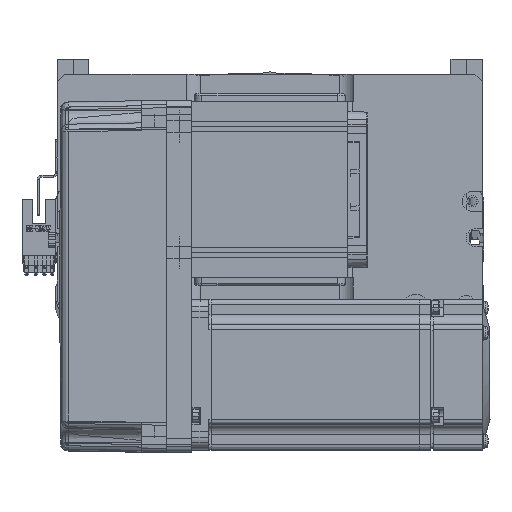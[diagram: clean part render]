
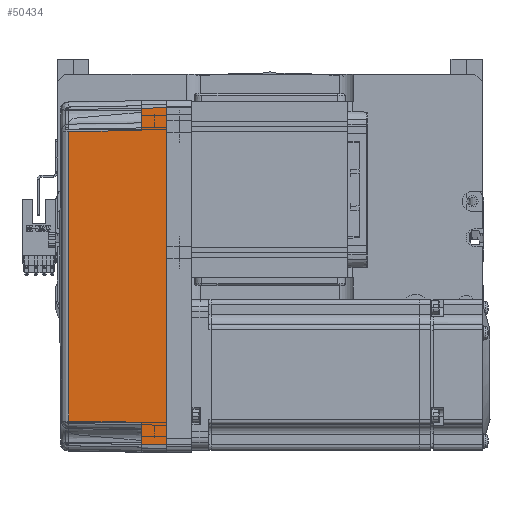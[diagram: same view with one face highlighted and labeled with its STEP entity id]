
A CAD part, top view. The second image highlights one B-rep face of the part: STEP entity #50434.
In plain terms, the highlighted planar face has unit normal (-0.018, 0, 1) as drawn and (0, -1, 0.017) by its records, which use the part's own axes.
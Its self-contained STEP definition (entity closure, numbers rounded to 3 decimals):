
#552 = EDGE_CURVE ( 'NONE', #25364, #19682, #39865, .T. ) ;
#1303 = VECTOR ( 'NONE', #15045, 1000. ) ;
#1972 = ORIENTED_EDGE ( 'NONE', *, *, #2095, .T. ) ;
#2040 = CARTESIAN_POINT ( 'NONE',  ( -57.495, -35.32, 38.985 ) ) ;
#2095 = EDGE_CURVE ( 'NONE', #4262, #47959, #62232, .T. ) ;
#4262 = VERTEX_POINT ( 'NONE', #66406 ) ;
#5604 = LINE ( 'NONE', #39344, #9659 ) ;
#6268 = DIRECTION ( 'NONE',  ( -0.017, 0.017, 1. ) ) ;
#9615 = CARTESIAN_POINT ( 'NONE',  ( 0., -36., 0. ) ) ;
#9659 = VECTOR ( 'NONE', #14251, 1000. ) ;
#10839 = DIRECTION ( 'NONE',  ( -1., 0., 0. ) ) ;
#11305 = EDGE_CURVE ( 'NONE', #53164, #25385, #28740, .T. ) ;
#12163 = CARTESIAN_POINT ( 'NONE',  ( -19.165, -35.316, 39.181 ) ) ;
#12827 = DIRECTION ( 'NONE',  ( -1., 0., 0. ) ) ;
#14251 = DIRECTION ( 'NONE',  ( -0.017, 0.017, 1. ) ) ;
#15045 = DIRECTION ( 'NONE',  ( -1., 0., 0. ) ) ;
#16704 = LINE ( 'NONE', #9615, #1303 ) ;
#17444 = VECTOR ( 'NONE', #10839, 1000. ) ;
#19682 = VERTEX_POINT ( 'NONE', #2040 ) ;
#20656 = LINE ( 'NONE', #54173, #31159 ) ;
#21698 = EDGE_CURVE ( 'NONE', #19682, #64224, #26202, .T. ) ;
#22330 = CARTESIAN_POINT ( 'NONE',  ( 57.495, -35.32, 38.985 ) ) ;
#22600 = CARTESIAN_POINT ( 'NONE',  ( -58., -35.825, 10. ) ) ;
#24704 = CARTESIAN_POINT ( 'NONE',  ( -66.826, -35.825, 10. ) ) ;
#25364 = VERTEX_POINT ( 'NONE', #34629 ) ;
#25385 = VERTEX_POINT ( 'NONE', #24704 ) ;
#26192 = DIRECTION ( 'NONE',  ( 0., -0.017, -1. ) ) ;
#26202 = LINE ( 'NONE', #49921, #65783 ) ;
#26653 = ORIENTED_EDGE ( 'NONE', *, *, #552, .T. ) ;
#26837 = DIRECTION ( 'NONE',  ( 0., -1., 0.017 ) ) ;
#27093 = CARTESIAN_POINT ( 'NONE',  ( 19.165, -35.316, 39.181 ) ) ;
#27764 = EDGE_CURVE ( 'NONE', #4262, #53164, #16704, .T. ) ;
#28740 = LINE ( 'NONE', #44649, #53024 ) ;
#31159 = VECTOR ( 'NONE', #12827, 1000. ) ;
#31430 = CARTESIAN_POINT ( 'NONE',  ( 70., -35.825, 10. ) ) ;
#34629 = CARTESIAN_POINT ( 'NONE',  ( 57.495, -35.32, 38.985 ) ) ;
#37218 = ORIENTED_EDGE ( 'NONE', *, *, #27764, .F. ) ;
#37267 = CARTESIAN_POINT ( 'NONE',  ( 67., -36., 0. ) ) ;
#37463 = CARTESIAN_POINT ( 'NONE',  ( -57.495, -35.32, 38.985 ) ) ;
#37650 = LINE ( 'NONE', #31430, #17444 ) ;
#38965 = ORIENTED_EDGE ( 'NONE', *, *, #43699, .T. ) ;
#39023 = ORIENTED_EDGE ( 'NONE', *, *, #11305, .F. ) ;
#39066 = CARTESIAN_POINT ( 'NONE',  ( 66.826, -35.825, 10. ) ) ;
#39344 = CARTESIAN_POINT ( 'NONE',  ( 58., -35.825, 10. ) ) ;
#39865 = B_SPLINE_CURVE_WITH_KNOTS ( 'NONE', 3,
 ( #22330, #27093, #12163, #37463 ),
 .UNSPECIFIED., .F., .F.,
 ( 4, 4 ),
 ( 0., 1. ),
 .UNSPECIFIED. ) ;
#43699 = EDGE_CURVE ( 'NONE', #64224, #25385, #20656, .T. ) ;
#44068 = AXIS2_PLACEMENT_3D ( 'NONE', #57162, #26837, #26192 ) ;
#44649 = CARTESIAN_POINT ( 'NONE',  ( -66.959, -35.958, 2.39 ) ) ;
#45963 = VERTEX_POINT ( 'NONE', #46447 ) ;
#46362 = ORIENTED_EDGE ( 'NONE', *, *, #61434, .T. ) ;
#46447 = CARTESIAN_POINT ( 'NONE',  ( 58., -35.825, 10. ) ) ;
#46777 = PLANE ( 'NONE',  #44068 ) ;
#47767 = ORIENTED_EDGE ( 'NONE', *, *, #21698, .T. ) ;
#47959 = VERTEX_POINT ( 'NONE', #39066 ) ;
#48510 = VECTOR ( 'NONE', #6268, 1000. ) ;
#49921 = CARTESIAN_POINT ( 'NONE',  ( -57.495, -35.32, 38.985 ) ) ;
#50434 = ADVANCED_FACE ( 'NONE', ( #61952 ), #46777, .T. ) ;
#50554 = DIRECTION ( 'NONE',  ( 0.017, 0.017, 1. ) ) ;
#53024 = VECTOR ( 'NONE', #50554, 1000. ) ;
#53164 = VERTEX_POINT ( 'NONE', #57608 ) ;
#54173 = CARTESIAN_POINT ( 'NONE',  ( 70., -35.825, 10. ) ) ;
#57162 = CARTESIAN_POINT ( 'NONE',  ( 70., -36., 0. ) ) ;
#57608 = CARTESIAN_POINT ( 'NONE',  ( -67., -36., 0. ) ) ;
#58702 = EDGE_CURVE ( 'NONE', #47959, #45963, #37650, .T. ) ;
#61434 = EDGE_CURVE ( 'NONE', #45963, #25364, #5604, .T. ) ;
#61952 = FACE_OUTER_BOUND ( 'NONE', #62333, .T. ) ;
#62232 = LINE ( 'NONE', #37267, #48510 ) ;
#62333 = EDGE_LOOP ( 'NONE', ( #1972, #66629, #46362, #26653, #47767, #38965, #39023, #37218 ) ) ;
#64224 = VERTEX_POINT ( 'NONE', #22600 ) ;
#65016 = DIRECTION ( 'NONE',  ( -0.017, -0.017, -1. ) ) ;
#65783 = VECTOR ( 'NONE', #65016, 1000. ) ;
#66406 = CARTESIAN_POINT ( 'NONE',  ( 67., -36., 0. ) ) ;
#66629 = ORIENTED_EDGE ( 'NONE', *, *, #58702, .T. ) ;
